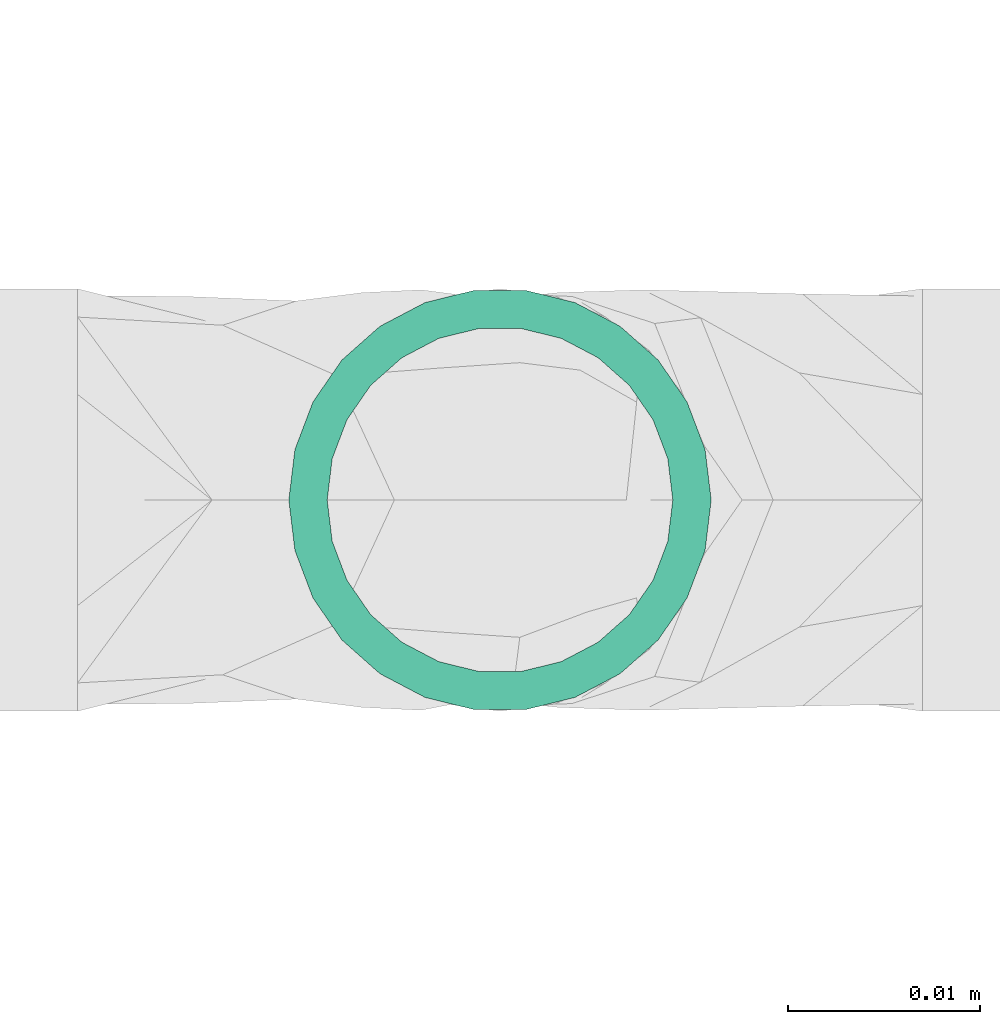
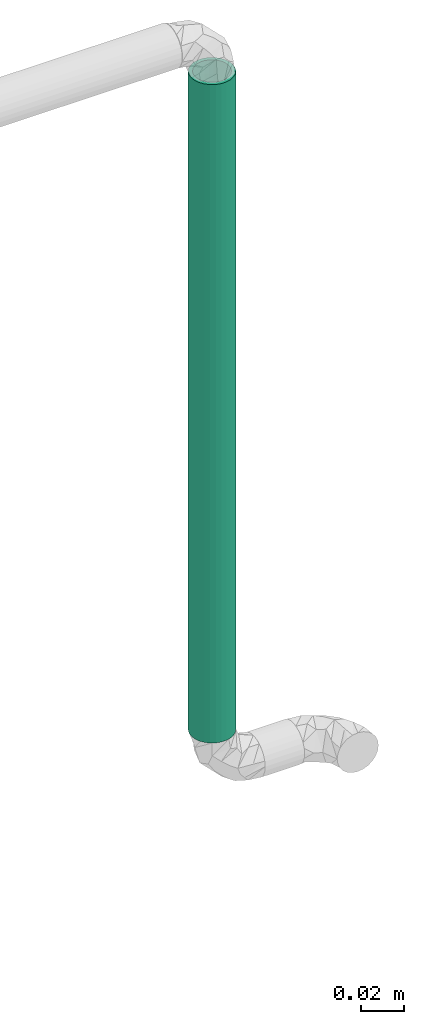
# One storey, part 37 of 78: 1 flow segment.
"""IFC2X3 building model written with IfcOpenShell, lengths in millimetres."""

from ifc_helpers import new_model, entity, si_unit, converted_unit, derived_unit, direction, frame, origin_with_axes, origin_2d_with_axis, place, context, subcontext, project, spatial, hollow_circle, extrude, source, transform, mapped, type_object, element, save


model = new_model("IFC2X3")

# Units and contexts
model_context = context("Model", 3, precision=0.01, world=frame((0.0, 4.29681676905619e-09, 0.0)), true_north=direction((4.01073788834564e-13, 1.0)))
plan_context = context("Plan", 3, precision=0.01, world=frame((0.0, 4.29681676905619e-09, 0.0)), true_north=direction((4.01073788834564e-13, 1.0)))
body_context = subcontext(model_context, "Body", "Model", "MODEL_VIEW")
ifc_project = project(units=[converted_unit("PLANEANGLEUNIT", "DEGREE", entity("IfcPositiveLengthMeasure", 0.0174532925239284), si_unit("PLANEANGLEUNIT", "RADIAN"), dimensions=[0, 0, 0, 0, 0, 0, 0]), si_unit("AREAUNIT", "SQUARE_METRE"), si_unit("LENGTHUNIT", "METRE", prefix="MILLI"), si_unit("MASSUNIT", "GRAM", prefix="KILO"), si_unit("POWERUNIT", "WATT"), si_unit("PRESSUREUNIT", "PASCAL"), si_unit("FORCEUNIT", "NEWTON", prefix="KILO"), si_unit("ELECTRICVOLTAGEUNIT", "VOLT"), si_unit("ELECTRICCURRENTUNIT", "AMPERE"), si_unit("THERMODYNAMICTEMPERATUREUNIT", "DEGREE_CELSIUS"), si_unit("TIMEUNIT", "SECOND"), si_unit("VOLUMEUNIT", "CUBIC_METRE"), derived_unit("LINEARVELOCITYUNIT", [(si_unit("LENGTHUNIT", "METRE"), 1), (si_unit("TIMEUNIT", "SECOND"), -1)]), derived_unit("VOLUMETRICFLOWRATEUNIT", [(si_unit("VOLUMEUNIT", "CUBIC_METRE"), 1), (si_unit("TIMEUNIT", "SECOND"), -1)]), derived_unit("THERMALTRANSMITTANCEUNIT", [(si_unit("POWERUNIT", "WATT"), 1), (si_unit("THERMODYNAMICTEMPERATUREUNIT", "KELVIN"), -1), (si_unit("AREAUNIT", "SQUARE_METRE"), -1)]), derived_unit("SOUNDPRESSUREUNIT", [(si_unit("PRESSUREUNIT", "PASCAL"), 1)])], contexts=[model_context, plan_context])

# Site, building, storey
site_placement = place(None, frame((0.0, -4.29681676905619e-09, 0.0), z_axis=(0.0, 0.0, 1.0), x_axis=(1.0, 0.0, 0.0)))
site = spatial("IfcSite", under=ifc_project, at=site_placement, Name="ENGM", CompositionType="ELEMENT")
building_placement = place(site_placement, frame((0.0, 4.29681676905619e-09, 0.0), z_axis=(0.0, 0.0, 1.0), x_axis=(1.0, 0.0, 0.0)))
building = spatial("IfcBuilding", under=site, at=building_placement, Name="TH", CompositionType="ELEMENT")
storey_placement = place(building_placement, frame((0.0, 0.0, 205200.0), z_axis=(0.0, 0.0, 1.0), x_axis=(1.0, 0.0, 0.0)))
storey = spatial("IfcBuildingStorey", under=building, at=storey_placement, Name="Nivå D + 1,2 m", CompositionType="ELEMENT", Elevation=205200.0)

# Flow segment
pipe_segment_type = type_object("IfcPipeSegmentType", Name="Kobberrør", PredefinedType="RIGIDSEGMENT")
shared_shape = source(origin_with_axes(), body_context, "Body", "SweptSolid", [
    extrude(hollow_circle(Radius=11.0, WallThickness=2.0, at=origin_2d_with_axis()), frame((0.0, 0.0, 0.0), z_axis=(1.0, 0.0, 0.0), x_axis=(0.0, 1.0, 0.0)), (0.0, 0.0, 1.0), 371.0),
])
flow_segment_placement = place(storey_placement, frame((905170.85557, 482016.52017, 7677.08702000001), z_axis=(0.0, 1.0, 0.0), x_axis=(0.0, 0.0, 1.0)))
element("IfcFlowSegment", 1, at=flow_segment_placement, inside=storey, type_object=pipe_segment_type, Name="Kobberrør", context=body_context, shape_type="MappedRepresentation", body=[
    mapped(shared_shape, transform((0.0, 0.0, 0.0), scale=1.0)),
])

save(model, "model.ifc")
